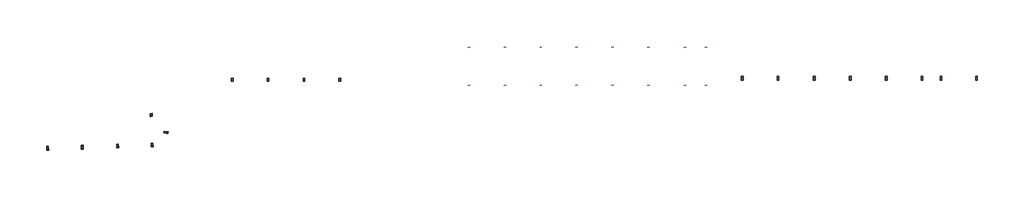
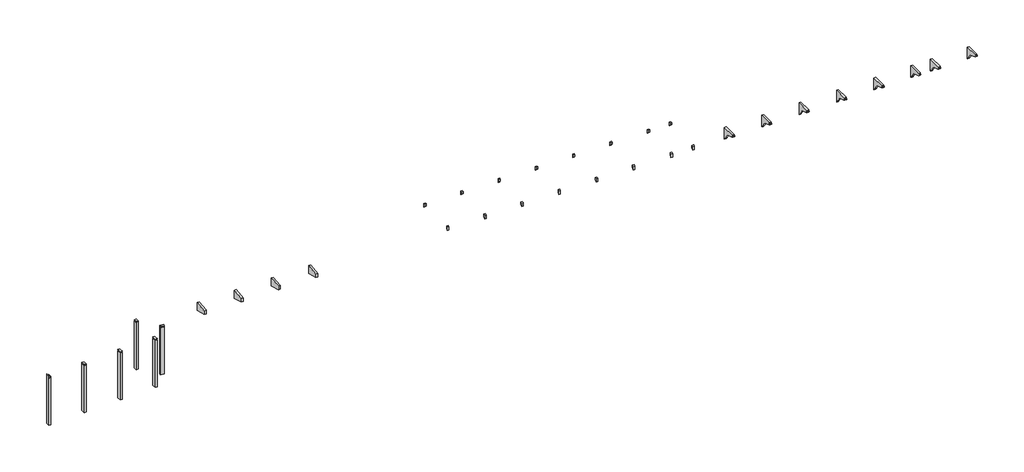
# One storey: 28 beams, 6 columns.
"""IFC4 building model written with IfcOpenShell, lengths in millimetres."""

import ifcopenshell
import ifcopenshell.guid

model = None  # the IFC model being written
_history = None  # IfcOwnerHistory: only IFC2X3 demands one
_inside = {}  # id of a spatial element -> (the spatial element, [elements in it])
_under = {}  # id of a project, library or spatial element -> (it, [spatial elements below it])
_declared = {}  # id of a project -> (the project, [libraries it declares])
_typed = {}  # id of a type object -> (the type object, [elements of that type])
_made_of = {}  # id of a material, layer set ... -> (it, [elements and type objects made of it])


def new_model(schema):
    """Start an empty IFC model of exactly this schema.

    Asked for "IFC4X3", IfcOpenShell would pick the latest addendum, in which some entities
    have other attributes; the version numbers below select the first issue.
    IFC2X3 requires an IfcOwnerHistory on every rooted entity: one is made here for all.
    """
    global model, _history
    if schema == "IFC4X3":
        model = ifcopenshell.file(schema_version=(4, 3, 0, 0))
    else:
        model = ifcopenshell.file(schema=schema)
    _inside.clear()
    _under.clear()
    _declared.clear()
    _typed.clear()
    _made_of.clear()
    _history = None
    if model.schema == "IFC2X3":
        org = make("IfcOrganization", Name="unknown")
        user = make(
            "IfcPersonAndOrganization",
            ThePerson=make("IfcPerson", FamilyName="unknown"),
            TheOrganization=org,
        )
        app = make(
            "IfcApplication",
            ApplicationDeveloper=org,
            Version="unknown",
            ApplicationFullName="unknown",
            ApplicationIdentifier="unknown",
        )
        _history = make(
            "IfcOwnerHistory",
            OwningUser=user,
            OwningApplication=app,
            ChangeAction="ADDED",
            CreationDate=0,
        )
    return model


def make(cls, **values):
    """One entity of the class cls with the attributes given. An attribute that is None is left unset."""
    return model.create_entity(
        cls, **{name: value for name, value in values.items() if value is not None}
    )


def rooted(cls, **values):
    """An entity with a GlobalId (a new one), such as an element, a storey or a relation."""
    return make(cls, GlobalId=ifcopenshell.guid.new(), OwnerHistory=_history, **values)


def si_unit(unit_type, name, prefix=None):
    """IfcSIUnit, for example si_unit("LENGTHUNIT", "METRE", prefix="MILLI")."""
    return make("IfcSIUnit", UnitType=unit_type, Prefix=prefix, Name=name)


def assignment(units):
    """IfcUnitAssignment: the units of a project."""
    return None if units is None else make("IfcUnitAssignment", Units=units)


def point(xyz):
    """IfcCartesianPoint."""
    return None if xyz is None else make("IfcCartesianPoint", Coordinates=xyz)


def direction(xyz):
    """IfcDirection."""
    return None if xyz is None else make("IfcDirection", DirectionRatios=xyz)


def frame(location, z_axis=None, x_axis=None):
    """IfcAxis2Placement3D, a coordinate frame: its origin and axes. An axis left out is left unset."""
    return make(
        "IfcAxis2Placement3D",
        Location=point(location),
        Axis=direction(z_axis),
        RefDirection=direction(x_axis),
    )


def frame_2d(location, x_axis=None):
    """IfcAxis2Placement2D, a coordinate frame in the plane: its origin and x axis."""
    return make(
        "IfcAxis2Placement2D", Location=point(location), RefDirection=direction(x_axis)
    )


def origin():
    """The frame at (0, 0, 0) with its axes left unset."""
    return frame((0.0, 0.0, 0.0))


def place(relative_to, where):
    """IfcLocalPlacement: puts the frame where relative to a parent placement (None: the world)."""
    return make(
        "IfcLocalPlacement", PlacementRelTo=relative_to, RelativePlacement=where
    )


def context(
    kind, dimensions, precision=None, world=None, true_north=None, identifier=None
):
    """IfcGeometricRepresentationContext, for example the 3D "Model" context."""
    return make(
        "IfcGeometricRepresentationContext",
        ContextIdentifier=identifier,
        ContextType=kind,
        CoordinateSpaceDimension=dimensions,
        Precision=precision,
        WorldCoordinateSystem=world,
        TrueNorth=true_north,
    )


def project(units=None, contexts=None):
    """IfcProject with its units and contexts."""
    return rooted(
        "IfcProject",
        Name="project",
        RepresentationContexts=contexts,
        UnitsInContext=assignment(units),
    )


def spatial(cls, under=None, at=None, **own):
    """A site, building, storey or space (cls), placed at a placement, below another one or the project."""
    s = rooted(cls, ObjectPlacement=at, **own)
    if under is not None:
        _under.setdefault(under.id(), (under, []))[1].append(s)
    return s


def polyline(points):
    """IfcPolyline through the points."""
    return make("IfcPolyline", Points=[point(p) for p in points])


def circle_curve(where, radius):
    """IfcCircle in the frame where."""
    return make("IfcCircle", Position=where, Radius=radius)


def trimmed(basis, trim1, trim2, sense, master):
    """IfcTrimmedCurve: the piece of a basis curve between two trims."""
    return make(
        "IfcTrimmedCurve",
        BasisCurve=basis,
        Trim1=trim1,
        Trim2=trim2,
        SenseAgreement=sense,
        MasterRepresentation=master,
    )


def segment(curve, same_sense, transition):
    """IfcCompositeCurveSegment."""
    return make(
        "IfcCompositeCurveSegment",
        Transition=transition,
        SameSense=same_sense,
        ParentCurve=curve,
    )


def composite_curve(segments, self_intersect=None):
    """IfcCompositeCurve: segments joined end to end."""
    return make("IfcCompositeCurve", Segments=segments, SelfIntersect=self_intersect)


def outline(outer, holes=None, kind="AREA"):
    """IfcArbitraryClosedProfileDef: a profile drawn as a closed curve; with holes, ...WithVoids."""
    if holes is None:
        return make("IfcArbitraryClosedProfileDef", ProfileType=kind, OuterCurve=outer)
    return make(
        "IfcArbitraryProfileDefWithVoids",
        ProfileType=kind,
        OuterCurve=outer,
        InnerCurves=holes,
    )


def extrude(swept, where, along, depth):
    """IfcExtrudedAreaSolid: the profile swept, set in the frame where, extruded along a direction by depth."""
    return make(
        "IfcExtrudedAreaSolid",
        SweptArea=swept,
        Position=where,
        ExtrudedDirection=direction(along),
        Depth=depth,
    )


def faces_of(points, faces, orient=None, outer=None):
    """IfcFace entities. A face is a list of loops; a loop is a list of indices into points, from 0.

    orient and outer hold one flag for each loop. By default every Orientation is true, the
    first loop of a face is its IfcFaceOuterBound and the others are IfcFaceBound.
    """
    made = []
    for i, loops in enumerate(faces):
        bounds = []
        for j, loop in enumerate(loops):
            is_outer = j == 0 if outer is None else outer[i][j]
            bounds.append(
                make(
                    "IfcFaceOuterBound" if is_outer else "IfcFaceBound",
                    Bound=make("IfcPolyLoop", Polygon=[points[k] for k in loop]),
                    Orientation=True if orient is None else orient[i][j],
                )
            )
        made.append(make("IfcFace", Bounds=bounds))
    return made


def faceted_brep(points, faces, orient=None, outer=None, voids=None):
    """IfcFacetedBrep: a solid bounded by flat faces; with voids (closed shells), ...WithVoids."""
    shared = [point(p) for p in points]
    hull = make("IfcClosedShell", CfsFaces=faces_of(shared, faces, orient, outer))
    if voids is None:
        return make("IfcFacetedBrep", Outer=hull)
    return make(
        "IfcFacetedBrepWithVoids",
        Outer=hull,
        Voids=[
            make(cls, CfsFaces=faces_of(shared, fs, o, b)) for cls, fs, o, b in voids
        ],
    )


def shape(context_of_items, identifier, shape_type, items):
    """IfcShapeRepresentation: the items that make up one representation, for example the "Body"."""
    return make(
        "IfcShapeRepresentation",
        ContextOfItems=context_of_items,
        RepresentationIdentifier=identifier,
        RepresentationType=shape_type,
        Items=items,
    )


def source(mapping_origin, context_of_items, identifier, shape_type, items):
    """IfcRepresentationMap: a shape defined once, which mapped items show again and again."""
    return make(
        "IfcRepresentationMap",
        MappingOrigin=mapping_origin,
        MappedRepresentation=shape(context_of_items, identifier, shape_type, items),
    )


def transform(
    local_origin,
    x_axis=None,
    y_axis=None,
    z_axis=None,
    scale=None,
    scale2=None,
    scale3=None,
    uniform=True,
):
    """IfcCartesianTransformationOperator3D, or its non-uniform kind. x_axis, y_axis, z_axis: its Axis1, 2, 3."""
    if uniform:
        return make(
            "IfcCartesianTransformationOperator3D",
            Axis1=direction(x_axis),
            Axis2=direction(y_axis),
            LocalOrigin=point(local_origin),
            Scale=scale,
            Axis3=direction(z_axis),
        )
    return make(
        "IfcCartesianTransformationOperator3DnonUniform",
        Axis1=direction(x_axis),
        Axis2=direction(y_axis),
        LocalOrigin=point(local_origin),
        Scale=scale,
        Axis3=direction(z_axis),
        Scale2=scale2,
        Scale3=scale3,
    )


def mapped(mapping_source, mapping_target):
    """IfcMappedItem: shows the shape of a source again, moved by a transform."""
    return make(
        "IfcMappedItem", MappingSource=mapping_source, MappingTarget=mapping_target
    )


def made_of(thing, what):
    """Note that an element or type object is made of a material, layer set ...; save() writes the relation."""
    if what is not None:
        _made_of.setdefault(what.id(), (what, []))[1].append(thing)
    return thing


def element(
    cls,
    number,
    at=None,
    inside=None,
    cuts=None,
    type_object=None,
    material=None,
    context=None,
    identifier="Body",
    shape_type=None,
    held_by="IfcProductDefinitionShape",
    body=None,
    shapes=None,
    **own,
):
    """One element of the class cls, such as IfcWall. Its Tag is "e" and its number.

    at: its placement. inside: the storey or other place that contains it. cuts: it is an
    opening in that element (IfcRelVoidsElement). A single representation is given by context,
    identifier, shape_type and body (its items); several are given by shapes. held_by: the class
    of the entity that holds the representations. save() writes the other relations.
    """
    e = rooted(cls, Tag="e%d" % number, ObjectPlacement=at, **own)
    if body is not None:
        shapes = [shape(context, identifier, shape_type, body)]
    if shapes is not None:
        e.Representation = make(held_by, Representations=shapes)
    if inside is not None:
        _inside.setdefault(inside.id(), (inside, []))[1].append(e)
    if cuts is not None:
        rooted(
            "IfcRelVoidsElement", RelatingBuildingElement=cuts, RelatedOpeningElement=e
        )
    if type_object is not None:
        _typed.setdefault(type_object.id(), (type_object, []))[1].append(e)
    return made_of(e, material)


def aggregate(whole, parts):
    """IfcRelAggregates: a whole, such as a stair, and the parts it consists of."""
    return rooted("IfcRelAggregates", RelatingObject=whole, RelatedObjects=parts)


def save(model, path):
    """Write the relations noted so far, then the file.

    IfcRelAggregates (storeys below a building ...), IfcRelContainedInSpatialStructure (elements
    in a storey), IfcRelDefinesByType, IfcRelAssociatesMaterial and IfcRelDeclares: one each for
    every whole, place, type object, material and project.
    """
    for whole, parts in _under.values():
        aggregate(whole, parts)
    for where, things in _inside.values():
        rooted(
            "IfcRelContainedInSpatialStructure",
            RelatedElements=things,
            RelatingStructure=where,
        )
    for kind, things in _typed.values():
        rooted("IfcRelDefinesByType", RelatedObjects=things, RelatingType=kind)
    for what, things in _made_of.values():
        rooted("IfcRelAssociatesMaterial", RelatedObjects=things, RelatingMaterial=what)
    for by, libraries in _declared.values():
        rooted("IfcRelDeclares", RelatingContext=by, RelatedDefinitions=libraries)
    model.write(path)


def beam_d1a3bf84(model_context):
    return source(origin(), model_context, "Body", "SweptSolid", [
        extrude(outline(polyline([(24644.0647091, -4580.0), (24644.0647091, -4880.0), (24463.3920265, -5069.0), (24463.3920265, -4580.0), (24644.0647091, -4580.0)])), frame((16842.3599913, 0.0, 0.0), z_axis=(1.0, 0.0, 0.0), x_axis=(0.0, 1.0, 0.0)), (0.0, 0.0, 1.0), 200.0),
    ])


def beam_ebc30045(model_context):
    return source(origin(), model_context, "Body", "SweptSolid", [
        extrude(outline(polyline([(23913.3920265, -5124.2740657), (23913.3920265, -4624.2740657), (25513.3893107, -4470.0), (25513.3893107, -5566.6914971), (23913.3920265, -5124.2740657)])), frame((-5436.275001, 0.0, 0.0), z_axis=(1.0, 0.0, 0.0), x_axis=(0.0, 1.0, 0.0)), (0.0, 0.0, 1.0), 250.0),
    ])


def beam_6ca558f2(model_context):
    return source(origin(), model_context, "Body", "SweptSolid", [
        extrude(outline(polyline([(23913.3920265, -5124.2740657), (23913.3920265, -4624.2740657), (25513.3893107, -4470.0), (25513.3893107, -5566.6914971), (23913.3920265, -5124.2740657)])), frame((-10276.2776146, 0.0, 0.0), z_axis=(1.0, 0.0, 0.0), x_axis=(0.0, 1.0, 0.0)), (0.0, 0.0, 1.0), 250.0),
    ])


def beam_40692427(model_context):
    return source(origin(), model_context, "Body", "SweptSolid", [
        extrude(outline(polyline([(23913.3920265, -5124.2740657), (23913.3920265, -4624.2740657), (25513.3893107, -4470.0), (25513.3893107, -5566.6914971), (23913.3920265, -5124.2740657)])), frame((-15116.2802282, 0.0, 0.0), z_axis=(1.0, 0.0, 0.0), x_axis=(0.0, 1.0, 0.0)), (0.0, 0.0, 1.0), 250.0),
    ])


def beam_e991850b(model_context):
    return source(origin(), model_context, "Body", "SweptSolid", [
        extrude(outline(polyline([(23913.3920265, -5124.2740657), (23913.3920265, -4624.2740657), (25513.3893107, -4470.0), (25513.3893107, -5566.6914971), (23913.3920265, -5124.2740657)])), frame((-596.2723874, 0.0, 0.0), z_axis=(1.0, 0.0, 0.0), x_axis=(0.0, 1.0, 0.0)), (0.0, 0.0, 1.0), 250.0),
    ])


def beam_4fc44dff(model_context):
    return source(origin(), model_context, "Body", "SweptSolid", [
        extrude(outline(polyline([(29596.1224581, -4880.0), (29596.1224581, -4580.0), (29778.1197423, -4580.0), (29778.1197423, -5069.0), (29596.1224581, -4880.0)])), frame((16842.3599913, 0.0, 0.0), z_axis=(1.0, 0.0, 0.0), x_axis=(0.0, 1.0, 0.0)), (0.0, 0.0, 1.0), 200.0),
    ])


def beam_37fe69ae(model_context):
    return source(origin(), model_context, "Body", "SweptSolid", [
        extrude(outline(composite_curve([segment(trimmed(circle_curve(frame_2d((24082.2436131, -6161.9318168)), 1643.2182464), [point((25643.3920265, -5649.1142696))], [point((24117.5135392, -4519.0921296))], True, "CARTESIAN"), True, "CONTINUOUS"), segment(polyline([(24117.5135392, -4519.0921296), (24117.5135392, -4438.335738)]), True, "CONTINUOUS"), segment(trimmed(circle_curve(frame_2d((24064.3999141, -4438.335738)), 53.1136251), [point((24117.5135392, -4438.335738))], [point((24015.8461449, -4416.8046286))], False, "CARTESIAN"), True, "CONTINUOUS"), segment(polyline([(24015.8461449, -4416.8046286), (23984.7008081, -4416.8046286), (23984.7008081, -4396.8046286), (23913.3920265, -4396.8046286), (23913.3920265, -4296.8046286), (24033.3920265, -4296.8046286), (24033.3920265, -4190.0), (25763.3893107, -4190.0), (25763.3893107, -5776.8046286), (25746.2950816, -5776.8046286)]), True, "CONTINUOUS"), segment(trimmed(circle_curve(frame_2d((25669.1759258, -5781.2181855)), 77.2453472), [point((25746.2950816, -5776.8046286))], [point((25693.0663371, -5707.7600892))], True, "CARTESIAN"), True, "CONTINUOUS"), segment(trimmed(circle_curve(frame_2d((25657.2374049, -5710.7423835)), 35.9528367), [point((25693.0663371, -5707.7600892))], [point((25675.5418456, -5679.7980154))], True, "CARTESIAN"), True, "CONTINUOUS"), segment(trimmed(circle_curve(frame_2d((25689.830292, -5646.1469782)), 36.5588841), [point((25675.5418456, -5679.7980154))], [point((25653.3920265, -5649.1142696))], False, "CARTESIAN"), True, "CONTINUOUS"), segment(polyline([(25653.3920265, -5649.1142696), (25643.3920265, -5649.1142696)]), True, "CONTINUOUS")], self_intersect=False)), frame((53647.3573777, 0.0, 0.0), z_axis=(1.0, 0.0, 0.0), x_axis=(0.0, 1.0, 0.0)), (0.0, 0.0, 1.0), 250.0),
    ])


def beam_016028f3(model_context):
    return source(origin(), model_context, "Body", "SweptSolid", [
        extrude(outline(composite_curve([segment(trimmed(circle_curve(frame_2d((24082.2436131, -6161.9318168)), 1643.2182464), [point((25643.3920265, -5649.1142696))], [point((24117.5135392, -4519.0921296))], True, "CARTESIAN"), True, "CONTINUOUS"), segment(polyline([(24117.5135392, -4519.0921296), (24117.5135392, -4438.335738)]), True, "CONTINUOUS"), segment(trimmed(circle_curve(frame_2d((24064.3999141, -4438.335738)), 53.1136251), [point((24117.5135392, -4438.335738))], [point((24015.8461449, -4416.8046286))], False, "CARTESIAN"), True, "CONTINUOUS"), segment(polyline([(24015.8461449, -4416.8046286), (23984.7008081, -4416.8046286), (23984.7008081, -4396.8046286), (23913.3920265, -4396.8046286), (23913.3920265, -4296.8046286), (24033.3920265, -4296.8046286), (24033.3920265, -4190.0), (25763.3893107, -4190.0), (25763.3893107, -5776.8046286), (25746.2950816, -5776.8046286)]), True, "CONTINUOUS"), segment(trimmed(circle_curve(frame_2d((25669.1759258, -5781.2181855)), 77.2453472), [point((25746.2950816, -5776.8046286))], [point((25693.0663371, -5707.7600892))], True, "CARTESIAN"), True, "CONTINUOUS"), segment(trimmed(circle_curve(frame_2d((25657.2374049, -5710.7423835)), 35.9528367), [point((25693.0663371, -5707.7600892))], [point((25675.5418456, -5679.7980154))], True, "CARTESIAN"), True, "CONTINUOUS"), segment(trimmed(circle_curve(frame_2d((25689.830292, -5646.1469782)), 36.5588841), [point((25675.5418456, -5679.7980154))], [point((25653.3920265, -5649.1142696))], False, "CARTESIAN"), True, "CONTINUOUS"), segment(polyline([(25653.3920265, -5649.1142696), (25643.3920265, -5649.1142696)]), True, "CONTINUOUS")], self_intersect=False)), frame((53397.3573777, 0.0, 0.0), z_axis=(1.0, 0.0, 0.0), x_axis=(0.0, 1.0, 0.0)), (0.0, 0.0, 1.0), 250.0),
    ])


def beam_5facf98d(model_context):
    return source(origin(), model_context, "Body", "SweptSolid", [
        extrude(outline(polyline([(29595.8694137, -4880.0), (29595.8694137, -4580.0), (29778.1197423, -4580.0), (29778.1197423, -5069.0), (29595.8694137, -4880.0)])), frame((16842.3599913, 0.0, 0.0), z_axis=(1.0, 0.0, 0.0), x_axis=(0.0, 1.0, 0.0)), (0.0, 0.0, 1.0), 200.0),
    ])


def beam_c4b6eae7(model_context):
    return source(origin(), model_context, "Body", "Brep", [
        faceted_brep([(17042.3599913, 24463.3920025, -4734.2250558), (16842.3599913, 24463.3920025, -4734.2250558), (16842.3599913, 24463.3920025, -5214.2250558), (17042.3599913, 24463.3920025, -5214.2250558), (17042.3599913, 24648.7104492, -4660.0677053), (17042.3599913, 24648.7104492, -4960.0675611), (16842.3599913, 24648.7104492, -4960.0675611), (16842.3599913, 24648.7104492, -4660.0677053)], [[[0, 1, 2, 3]], [[4, 5, 6, 7]], [[4, 7, 1, 0]], [[7, 6, 2, 1]], [[6, 5, 3, 2]], [[5, 4, 0, 3]]]),
    ])


model = new_model("IFC4")

# Units and contexts
model_context = context("Model", 3, world=origin())
ifc_project = project(units=[si_unit("LENGTHUNIT", "METRE", prefix="MILLI")], contexts=[model_context])

# Site, building, storey
site = spatial("IfcSite", under=ifc_project)
building = spatial("IfcBuilding", under=site)
storey = spatial("IfcBuildingStorey", under=building, Name="Level 02 - B.O. Footing", Elevation=-6660.0035964)

# Beams
placement = place(None, origin())
beam_shape = beam_d1a3bf84(model_context)
element("IfcBeam", 1, ObjectType="appoggiTravi13 : appoggiTravi", at=placement, inside=storey, context=model_context, shape_type="MappedRepresentation", body=[
    mapped(beam_shape, transform((0.0, 0.0, 0.0), x_axis=(1.0, 0.0, 0.0), y_axis=(0.0, 1.0, 0.0), z_axis=(0.0, 0.0, 1.0))),
])
beam_2_shape = beam_ebc30045(model_context)
element("IfcBeam", 2, ObjectType="mensola1 : mensola", at=placement, inside=storey, context=model_context, shape_type="MappedRepresentation", body=[
    mapped(beam_2_shape, transform((0.0, 0.0, 0.0), x_axis=(1.0, 0.0, 0.0), y_axis=(0.0, 1.0, 0.0), z_axis=(0.0, 0.0, 1.0))),
])
beam_3_shape = beam_6ca558f2(model_context)
element("IfcBeam", 3, ObjectType="mensola2 : mensola", at=placement, inside=storey, context=model_context, shape_type="MappedRepresentation", body=[
    mapped(beam_3_shape, transform((0.0, 0.0, 0.0), x_axis=(1.0, 0.0, 0.0), y_axis=(0.0, 1.0, 0.0), z_axis=(0.0, 0.0, 1.0))),
])
beam_4_shape = beam_40692427(model_context)
element("IfcBeam", 4, ObjectType="mensola3 : mensola", at=placement, inside=storey, context=model_context, shape_type="MappedRepresentation", body=[
    mapped(beam_4_shape, transform((0.0, 0.0, 0.0), x_axis=(1.0, 0.0, 0.0), y_axis=(0.0, 1.0, 0.0), z_axis=(0.0, 0.0, 1.0))),
])
beam_5_shape = beam_e991850b(model_context)
element("IfcBeam", 5, ObjectType="mensola4 : mensola", at=placement, inside=storey, context=model_context, shape_type="MappedRepresentation", body=[
    mapped(beam_5_shape, transform((0.0, 0.0, 0.0), x_axis=(1.0, 0.0, 0.0), y_axis=(0.0, 1.0, 0.0), z_axis=(0.0, 0.0, 1.0))),
])
beam_6_shape = beam_4fc44dff(model_context)
element("IfcBeam", 6, ObjectType="appoggiTravi35 : appoggiTravi", at=placement, inside=storey, context=model_context, shape_type="MappedRepresentation", body=[
    mapped(beam_6_shape, transform((0.0, 0.0, 0.0), x_axis=(1.0, 0.0, 0.0), y_axis=(0.0, 1.0, 0.0), z_axis=(0.0, 0.0, 1.0))),
])
beam_7_shape = beam_37fe69ae(model_context)
element("IfcBeam", 7, ObjectType="mensole : mensole", at=placement, inside=storey, context=model_context, shape_type="MappedRepresentation", body=[
    mapped(beam_7_shape, transform((0.0, 0.0, -390.0), x_axis=(1.0, 0.0, 0.0), y_axis=(0.0, 1.0, 0.0), z_axis=(0.0, 0.0, 1.0))),
])
beam_8_shape = beam_016028f3(model_context)
element("IfcBeam", 8, ObjectType="mensole1 : mensole", at=placement, inside=storey, context=model_context, shape_type="MappedRepresentation", body=[
    mapped(beam_8_shape, transform((5090.0, 0.0, -390.0), x_axis=(1.0, 0.0, 0.0), y_axis=(0.0, 1.0, 0.0), z_axis=(0.0, 0.0, 1.0))),
])
element("IfcBeam", 9, ObjectType="mensole2 : mensole", at=placement, inside=storey, context=model_context, shape_type="MappedRepresentation", body=[
    mapped(beam_8_shape, transform((9960.0, 0.0, -390.0), x_axis=(1.0, 0.0, 0.0), y_axis=(0.0, 1.0, 0.0), z_axis=(0.0, 0.0, 1.0))),
])
element("IfcBeam", 10, ObjectType="mensole3 : mensole", at=placement, inside=storey, context=model_context, shape_type="MappedRepresentation", body=[
    mapped(beam_8_shape, transform((14840.0, 0.0, -390.0), x_axis=(1.0, 0.0, 0.0), y_axis=(0.0, 1.0, 0.0), z_axis=(0.0, 0.0, 1.0))),
])
element("IfcBeam", 11, ObjectType="mensole4 : mensole", at=placement, inside=storey, context=model_context, shape_type="MappedRepresentation", body=[
    mapped(beam_8_shape, transform((19710.0, 0.0, -390.0), x_axis=(1.0, 0.0, 0.0), y_axis=(0.0, 1.0, 0.0), z_axis=(0.0, 0.0, 1.0))),
])
element("IfcBeam", 12, ObjectType="mensole5 : mensole", at=placement, inside=storey, context=model_context, shape_type="MappedRepresentation", body=[
    mapped(beam_8_shape, transform((24510.0, 0.0, -390.0), x_axis=(1.0, 0.0, 0.0), y_axis=(0.0, 1.0, 0.0), z_axis=(0.0, 0.0, 1.0))),
])
element("IfcBeam", 13, ObjectType="mensole6 : mensole", at=placement, inside=storey, context=model_context, shape_type="MappedRepresentation", body=[
    mapped(beam_8_shape, transform((27060.0, 0.0, -390.0), x_axis=(1.0, 0.0, 0.0), y_axis=(0.0, 1.0, 0.0), z_axis=(0.0, 0.0, 1.0))),
])
element("IfcBeam", 14, ObjectType="mensole7 : mensole", at=placement, inside=storey, context=model_context, shape_type="MappedRepresentation", body=[
    mapped(beam_8_shape, transform((31860.0, 0.0, -390.0), x_axis=(1.0, 0.0, 0.0), y_axis=(0.0, 1.0, 0.0), z_axis=(0.0, 0.0, 1.0))),
])
beam_9_shape = beam_5facf98d(model_context)
element("IfcBeam", 15, ObjectType="appoggiTravi62 : appoggiTravi", at=placement, inside=storey, context=model_context, shape_type="MappedRepresentation", body=[
    mapped(beam_9_shape, transform((9680.0, 0.0, 0.0), x_axis=(1.0, 0.0, 0.0), y_axis=(0.0, 1.0, 0.0), z_axis=(0.0, 0.0, 1.0))),
])
beam_10_shape = beam_c4b6eae7(model_context)
element("IfcBeam", 16, ObjectType="appoggiTravi63 : appoggiTravi", at=placement, inside=storey, context=model_context, shape_type="MappedRepresentation", body=[
    mapped(beam_10_shape, transform((9680.0, 0.0, 0.0), x_axis=(1.0, 0.0, 0.0), y_axis=(0.0, 1.0, 0.0), z_axis=(0.0, 0.0, 1.0))),
])
element("IfcBeam", 17, ObjectType="appoggiTravi64 : appoggiTravi", at=placement, inside=storey, context=model_context, shape_type="MappedRepresentation", body=[
    mapped(beam_6_shape, transform((14520.0, 0.0, 0.0), x_axis=(1.0, 0.0, 0.0), y_axis=(0.0, 1.0, 0.0), z_axis=(0.0, 0.0, 1.0))),
])
element("IfcBeam", 18, ObjectType="appoggiTravi65 : appoggiTravi", at=placement, inside=storey, context=model_context, shape_type="MappedRepresentation", body=[
    mapped(beam_10_shape, transform((14520.0, 0.0, 0.0), x_axis=(1.0, 0.0, 0.0), y_axis=(0.0, 1.0, 0.0), z_axis=(0.0, 0.0, 1.0))),
])
element("IfcBeam", 19, ObjectType="appoggiTravi66 : appoggiTravi", at=placement, inside=storey, context=model_context, shape_type="MappedRepresentation", body=[
    mapped(beam_6_shape, transform((19360.0, 0.0, 0.0), x_axis=(1.0, 0.0, 0.0), y_axis=(0.0, 1.0, 0.0), z_axis=(0.0, 0.0, 1.0))),
])
element("IfcBeam", 20, ObjectType="appoggiTravi67 : appoggiTravi", at=placement, inside=storey, context=model_context, shape_type="MappedRepresentation", body=[
    mapped(beam_10_shape, transform((19360.0, 0.0, 0.0), x_axis=(1.0, 0.0, 0.0), y_axis=(0.0, 1.0, 0.0), z_axis=(0.0, 0.0, 1.0))),
])
element("IfcBeam", 21, ObjectType="appoggiTravi68 : appoggiTravi", at=placement, inside=storey, context=model_context, shape_type="MappedRepresentation", body=[
    mapped(beam_6_shape, transform((24200.0, 0.0, 0.0), x_axis=(1.0, 0.0, 0.0), y_axis=(0.0, 1.0, 0.0), z_axis=(0.0, 0.0, 1.0))),
])
element("IfcBeam", 22, ObjectType="appoggiTravi69 : appoggiTravi", at=placement, inside=storey, context=model_context, shape_type="MappedRepresentation", body=[
    mapped(beam_10_shape, transform((24200.0, 0.0, 0.0), x_axis=(1.0, 0.0, 0.0), y_axis=(0.0, 1.0, 0.0), z_axis=(0.0, 0.0, 1.0))),
])
element("IfcBeam", 23, ObjectType="appoggiTravi70 : appoggiTravi", at=placement, inside=storey, context=model_context, shape_type="MappedRepresentation", body=[
    mapped(beam_6_shape, transform((29100.0, 0.0, 0.0), x_axis=(1.0, 0.0, 0.0), y_axis=(0.0, 1.0, 0.0), z_axis=(0.0, 0.0, 1.0))),
])
element("IfcBeam", 24, ObjectType="appoggiTravi71 : appoggiTravi", at=placement, inside=storey, context=model_context, shape_type="MappedRepresentation", body=[
    mapped(beam_10_shape, transform((29100.0, 0.0, 0.0), x_axis=(1.0, 0.0, 0.0), y_axis=(0.0, 1.0, 0.0), z_axis=(0.0, 0.0, 1.0))),
])
element("IfcBeam", 25, ObjectType="appoggiTravi72 : appoggiTravi", at=placement, inside=storey, context=model_context, shape_type="MappedRepresentation", body=[
    mapped(beam_6_shape, transform((31940.0, 0.0, 0.0), x_axis=(1.0, 0.0, 0.0), y_axis=(0.0, 1.0, 0.0), z_axis=(0.0, 0.0, 1.0))),
])
element("IfcBeam", 26, ObjectType="appoggiTravi73 : appoggiTravi", at=placement, inside=storey, context=model_context, shape_type="MappedRepresentation", body=[
    mapped(beam_10_shape, transform((31940.0, 0.0, 0.0), x_axis=(1.0, 0.0, 0.0), y_axis=(0.0, 1.0, 0.0), z_axis=(0.0, 0.0, 1.0))),
])
element("IfcBeam", 27, ObjectType="appoggiTravi39 : appoggiTravi", at=placement, inside=storey, context=model_context, shape_type="MappedRepresentation", body=[
    mapped(beam_6_shape, transform((4840.0, 0.0, 0.0), x_axis=(1.0, 0.0, 0.0), y_axis=(0.0, 1.0, 0.0), z_axis=(0.0, 0.0, 1.0))),
])
element("IfcBeam", 28, ObjectType="appoggiTravi40 : appoggiTravi", at=placement, inside=storey, context=model_context, shape_type="MappedRepresentation", body=[
    mapped(beam_10_shape, transform((4840.0, 0.0, 0.0), x_axis=(1.0, 0.0, 0.0), y_axis=(0.0, 1.0, 0.0), z_axis=(0.0, 0.0, 1.0))),
])

# Columns
element("IfcColumn", 29, ObjectType="Pilastro in calcestruzzo - Rettangolare : 250 x 400", at=placement, inside=storey, context=model_context, shape_type="Brep", body=[
    faceted_brep([(-25791.5958751, 20750.3670297, -6760.0035964), (-25779.1227877, 20350.5615494, -6760.0035964), (-26029.0012129, 20342.7658698, -6760.0035964), (-26041.4743002, 20742.5713501, -6760.0035964), (-25779.1227877, 20350.5615494, -290.0), (-25791.5958751, 20750.3670297, -290.0), (-25816.5837176, 20749.5874617, -290.0), (-26016.4864577, 20743.3509181, -290.0), (-26041.4743002, 20742.5713501, -290.0), (-26029.0012129, 20342.7658698, -290.0), (-26004.0133704, 20343.5454377, -290.0), (-25804.1106302, 20349.7819814, -290.0)], [[[0, 1, 2, 3]], [[4, 5, 6, 7, 8, 9, 10, 11]], [[1, 0, 5, 4]], [[2, 1, 4, 11, 10, 9]], [[3, 2, 9, 8]], [[0, 3, 8, 7, 6, 5]]]),
    faceted_brep([(-25779.1227877, 20350.5615494, -170.0), (-25791.5958751, 20750.3670297, -170.0), (-25791.5958751, 20750.3670297, -120.0), (-25779.1227877, 20350.5615494, -120.0), (-26029.0012129, 20342.7658698, -170.0), (-26029.0012129, 20342.7658698, -120.0), (-26041.4743002, 20742.5713501, -170.0), (-26041.4743002, 20742.5713501, -120.0)], [[[0, 1, 2, 3]], [[4, 0, 3, 5]], [[6, 4, 5, 7]], [[1, 6, 7, 2]], [[1, 0, 4, 6]], [[3, 2, 7, 5]]]),
])
element("IfcColumn", 30, ObjectType="Pilastro in calcestruzzo - Rettangolare : 250 x 500", at=placement, inside=storey, context=model_context, shape_type="Brep", body=[
    faceted_brep([(-30323.3143634, 16607.0408318, -6760.0035964), (-30307.7230042, 16107.2839814, -6760.0035964), (-30557.6014294, 16099.4883018, -6760.0035964), (-30573.1927886, 16599.2451522, -6760.0035964), (-30307.7230042, 16107.2839814, -290.0), (-30323.3143634, 16607.0408318, -290.0), (-30573.1927886, 16599.2451522, -290.0), (-30557.6014294, 16099.4883018, -290.0), (-30307.7230042, 16107.2839814, -4370.0), (-30557.6014294, 16099.4883018, -4370.0)], [[[0, 1, 2, 3]], [[4, 5, 6, 7]], [[1, 0, 5, 4, 8]], [[2, 1, 8, 4, 7, 9]], [[3, 2, 9, 7, 6]], [[0, 3, 6, 5]]]),
    faceted_brep([(-30307.7230042, 16107.2839814, -170.0), (-30323.3143634, 16607.0408318, -170.0), (-30323.3143634, 16607.0408318, -120.0), (-30317.0803235, 16407.2183484, -120.0), (-30307.7230042, 16107.2839814, -120.0), (-30557.6014294, 16099.4883018, -170.0), (-30557.6014294, 16099.4883018, -120.0), (-30573.1927886, 16599.2451522, -170.0), (-30566.9587487, 16399.4226687, -120.0), (-30573.1927886, 16599.2451522, -120.0)], [[[0, 1, 2, 3, 4]], [[5, 0, 4, 6]], [[7, 5, 6, 8, 9]], [[1, 7, 9, 2]], [[1, 0, 5, 7]], [[4, 3, 2, 9, 8, 6]]]),
])
element("IfcColumn", 31, ObjectType="Pilastro in calcestruzzo - Rettangolare : 250 x 500", at=placement, inside=storey, context=model_context, shape_type="Brep", body=[
    faceted_brep([(-35082.2840628, 16458.5710189, -6760.0035964), (-35066.6927036, 15958.8141685, -6760.0035964), (-35316.5711288, 15951.0184889, -6760.0035964), (-35332.162488, 16450.7753393, -6760.0035964), (-35066.6927036, 15958.8141685, -290.0), (-35082.2840628, 16458.5710189, -290.0), (-35332.162488, 16450.7753393, -290.0), (-35316.5711288, 15951.0184889, -290.0), (-35066.6927036, 15958.8141685, -4370.0), (-35316.5711288, 15951.0184889, -4370.0)], [[[0, 1, 2, 3]], [[4, 5, 6, 7]], [[1, 0, 5, 4, 8]], [[2, 1, 8, 4, 7, 9]], [[3, 2, 9, 7, 6]], [[0, 3, 6, 5]]]),
    faceted_brep([(-35066.6927036, 15958.8141685, -170.0), (-35082.2840628, 16458.5710189, -170.0), (-35082.2840628, 16458.5710189, -120.0), (-35076.0500229, 16258.7485354, -120.0), (-35066.6927036, 15958.8141685, -120.0), (-35316.5711288, 15951.0184889, -170.0), (-35316.5711288, 15951.0184889, -120.0), (-35332.162488, 16450.7753393, -170.0), (-35325.9284481, 16250.9528558, -120.0), (-35332.162488, 16450.7753393, -120.0)], [[[0, 1, 2, 3, 4]], [[5, 0, 4, 6]], [[7, 5, 6, 8, 9]], [[1, 7, 9, 2]], [[1, 0, 5, 7]], [[4, 3, 2, 9, 8, 6]]]),
])
element("IfcColumn", 32, ObjectType="Pilastro in calcestruzzo - Rettangolare : 250 x 500", at=placement, inside=storey, context=model_context, shape_type="Brep", body=[
    faceted_brep([(-25666.8650013, 16752.3122265, -6760.0035964), (-25651.2736421, 16252.5553761, -6760.0035964), (-25901.1520673, 16244.7596965, -6760.0035964), (-25916.7434265, 16744.5165469, -6760.0035964), (-25651.5545479, 16261.5593755, -4370.0), (-25656.2342314, 16261.5593755, -4370.0), (-25656.2342314, 16261.5593755, -290.0), (-25651.5545479, 16261.5593755, -290.0), (-25656.2342314, 16411.5593755, -4370.0), (-25656.2342314, 16411.5593755, -290.0), (-25666.8650013, 16752.3122265, -290.0), (-25916.7434265, 16744.5165469, -290.0), (-25901.1520673, 16244.7596965, -290.0), (-25651.2736421, 16252.5553761, -290.0)], [[[0, 1, 2, 3]], [[4, 5, 6, 7]], [[5, 8, 9, 6]], [[5, 4, 8]], [[9, 10, 11, 12, 13, 7, 6]], [[2, 1, 13, 12]], [[3, 2, 12, 11]], [[0, 3, 11, 10]], [[1, 0, 10, 9, 8, 4, 7, 13]]]),
    faceted_brep([(-25651.2736421, 16252.5553761, -170.0), (-25651.5545479, 16261.5593755, -170.0), (-25651.5545479, 16261.5593755, -120.0), (-25651.2736421, 16252.5553761, -120.0), (-25901.1520673, 16244.7596965, -170.0), (-25901.1520673, 16244.7596965, -120.0), (-25916.7434265, 16744.5165469, -170.0), (-25916.7434265, 16744.5165469, -120.0), (-25666.8650013, 16752.3122265, -170.0), (-25666.8650013, 16752.3122265, -120.0), (-25656.2342314, 16411.5593755, -170.0), (-25656.2342314, 16261.5593755, -170.0), (-25656.2342314, 16411.5593755, -120.0), (-25656.2342314, 16261.5593755, -120.0)], [[[0, 1, 2, 3]], [[4, 0, 3, 5]], [[6, 4, 5, 7]], [[8, 6, 7, 9]], [[8, 10, 11, 1, 0, 4, 6]], [[10, 8, 9, 12]], [[3, 2, 13, 12, 9, 7, 5]], [[1, 11, 13, 2]], [[11, 10, 12, 13]]]),
])
element("IfcColumn", 33, ObjectType="Pilastro in calcestruzzo - Rettangolare : 250 x 500", at=placement, inside=storey, context=model_context, shape_type="Brep", body=[
    faceted_brep([(-39767.0047784, 16312.4176176, -6760.0035964), (-39751.4134192, 15812.6607672, -6760.0035964), (-40001.2918444, 15804.8650876, -6760.0035964), (-40016.8832036, 16304.621938, -6760.0035964), (-39751.4134192, 15812.6607672, -170.0), (-39767.0047784, 16312.4176176, -170.0), (-39767.0047784, 16312.4176176, -120.0), (-39760.7707385, 16112.5951341, -120.0), (-39751.4134192, 15812.6607672, -120.0), (-39751.4134192, 15812.6607672, -4370.0), (-39751.4134192, 15812.6607672, -290.0), (-39974.3049744, 15805.707021, -290.0), (-39974.3049744, 15805.707021, -170.0), (-39974.3049744, 15805.707021, -120.0), (-39974.3049744, 15805.707021, 0.0), (-40001.2918444, 15804.8650876, 0.0), (-40016.8832036, 16304.621938, 0.0), (-39989.8963337, 16305.4638714, 0.0), (-39989.8963337, 16305.4638714, -120.0), (-39989.8963337, 16305.4638714, -170.0), (-39989.8963337, 16305.4638714, -290.0), (-39767.0047784, 16312.4176176, -290.0)], [[[0, 1, 2, 3]], [[4, 5, 6, 7, 8]], [[2, 1, 9, 10, 11, 12, 4, 8, 13, 14, 15]], [[3, 2, 15, 16]], [[0, 3, 16, 17, 18, 6, 5, 19, 20, 21]], [[16, 15, 14, 17]], [[20, 11, 10, 21]], [[12, 19, 5, 4]], [[11, 20, 19, 12]], [[1, 0, 21, 10, 9]], [[18, 13, 8, 7, 6]], [[13, 18, 17, 14]]]),
])
element("IfcColumn", 34, ObjectType="Pilastro in calcestruzzo - Rettangolare : 250 x 500", at=placement, inside=storey, context=model_context, shape_type="Brep", body=[
    faceted_brep([(-24125.6272902, 18371.6730266, -6760.0035964), (-23639.2847971, 18255.6084779, -6760.0035964), (-23697.3170715, 18012.4372314, -6760.0035964), (-24183.6595645, 18128.5017801, -6760.0035964), (-23639.2847971, 18255.6084779, -290.0), (-24125.6272902, 18371.6730266, -290.0), (-24137.8379294, 18320.5070781, -290.0), (-24171.5156126, 18179.3882904, -290.0), (-24183.6595645, 18128.5017801, -290.0), (-23697.3170715, 18012.4372314, -290.0)], [[[0, 1, 2, 3]], [[4, 5, 6, 7, 8, 9]], [[1, 0, 5, 4]], [[2, 1, 4, 9]], [[3, 2, 9, 8]], [[0, 3, 8, 7, 6, 5]]]),
    faceted_brep([(-23639.2847971, 18255.6084779, -170.0), (-24125.6272902, 18371.6730266, -170.0), (-24125.6272902, 18371.6730266, -120.0), (-23639.2847971, 18255.6084779, -120.0), (-23697.3170715, 18012.4372314, -170.0), (-23697.3170715, 18012.4372314, -120.0), (-24183.6595645, 18128.5017801, -170.0), (-24183.6595645, 18128.5017801, -120.0)], [[[0, 1, 2, 3]], [[4, 0, 3, 5]], [[6, 4, 5, 7]], [[1, 6, 7, 2]], [[1, 0, 4, 6]], [[3, 2, 7, 5]]]),
])

save(model, "model.ifc")
